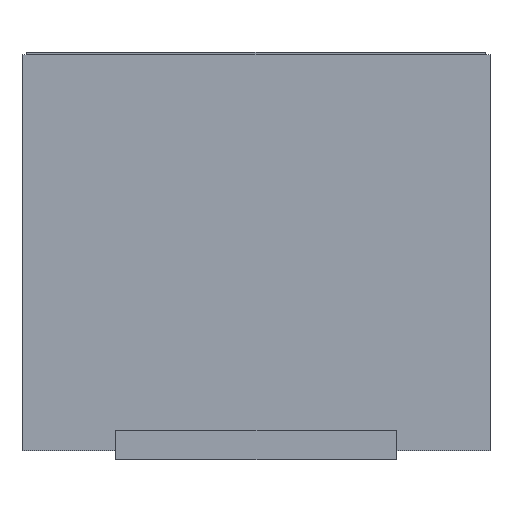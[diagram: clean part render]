
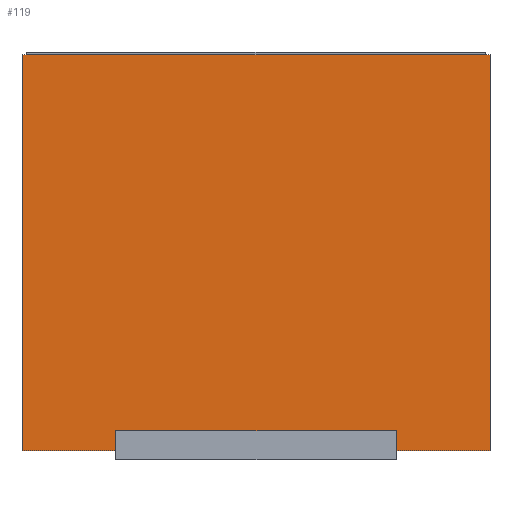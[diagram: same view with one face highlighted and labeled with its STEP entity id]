
A CAD part, left-side view. The second image highlights one B-rep face of the part: STEP entity #119.
In plain terms, the highlighted planar face has unit normal (-1, 0, 0).
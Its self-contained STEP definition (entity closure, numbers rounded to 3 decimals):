
#21 = EDGE_CURVE('',#22,#24,#26,.T.);
#22 = VERTEX_POINT('',#23);
#23 = CARTESIAN_POINT('',(-2.25,-1.4,0.08));
#24 = VERTEX_POINT('',#25);
#25 = CARTESIAN_POINT('',(-2.25,-1.4,2.45));
#26 = LINE('',#27,#28);
#27 = CARTESIAN_POINT('',(-2.25,-1.4,0.08));
#28 = VECTOR('',#29,1.);
#29 = DIRECTION('',(0.,0.,1.));
#94 = VERTEX_POINT('',#95);
#95 = CARTESIAN_POINT('',(-2.25,1.4,2.45));
#101 = EDGE_CURVE('',#102,#94,#104,.T.);
#102 = VERTEX_POINT('',#103);
#103 = CARTESIAN_POINT('',(-2.25,1.4,0.08));
#104 = LINE('',#105,#106);
#105 = CARTESIAN_POINT('',(-2.25,1.4,0.08));
#106 = VECTOR('',#107,1.);
#107 = DIRECTION('',(0.,0.,1.));
#119 = ADVANCED_FACE('',(#120),#136,.F.);
#120 = FACE_BOUND('',#121,.F.);
#121 = EDGE_LOOP('',(#122,#123,#129,#130));
#122 = ORIENTED_EDGE('',*,*,#101,.T.);
#123 = ORIENTED_EDGE('',*,*,#124,.T.);
#124 = EDGE_CURVE('',#94,#24,#125,.T.);
#125 = LINE('',#126,#127);
#126 = CARTESIAN_POINT('',(-2.25,1.4,2.45));
#127 = VECTOR('',#128,1.);
#128 = DIRECTION('',(0.,-1.,0.));
#129 = ORIENTED_EDGE('',*,*,#21,.F.);
#130 = ORIENTED_EDGE('',*,*,#131,.F.);
#131 = EDGE_CURVE('',#102,#22,#132,.T.);
#132 = LINE('',#133,#134);
#133 = CARTESIAN_POINT('',(-2.25,1.4,0.08));
#134 = VECTOR('',#135,1.);
#135 = DIRECTION('',(0.,-1.,0.));
#136 = PLANE('',#137);
#137 = AXIS2_PLACEMENT_3D('',#138,#139,#140);
#138 = CARTESIAN_POINT('',(-2.25,1.4,0.08));
#139 = DIRECTION('',(1.,0.,-0.));
#140 = DIRECTION('',(0.,-1.,0.));
